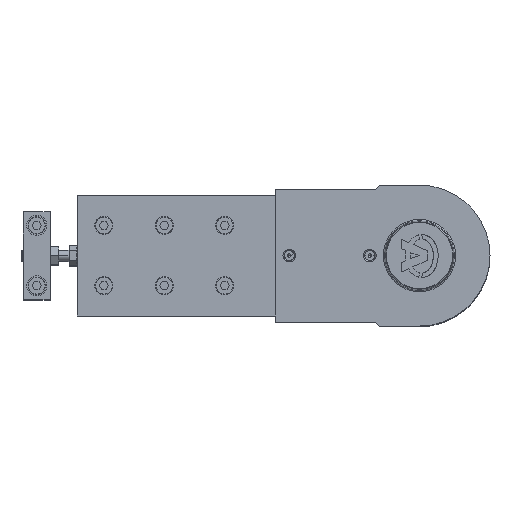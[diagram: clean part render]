
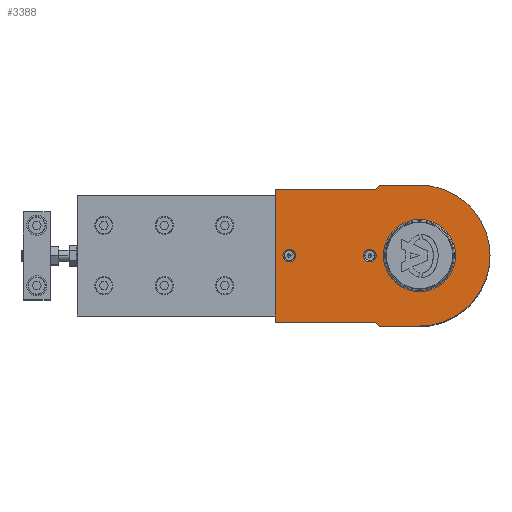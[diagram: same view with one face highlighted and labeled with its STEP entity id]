
A CAD part, top view. The second image highlights one B-rep face of the part: STEP entity #3388.
In plain terms, the highlighted planar face has unit normal (0, 0, 1).
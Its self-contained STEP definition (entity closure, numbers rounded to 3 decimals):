
#365 = EDGE_CURVE ( 'NONE', #3985, #3986, #20412, .T. ) ;
#367 = EDGE_CURVE ( 'NONE', #3980, #3981, #20417, .T. ) ;
#1515 = EDGE_CURVE ( 'NONE', #4199, #4206, #5870, .T. ) ;
#1516 = EDGE_CURVE ( 'NONE', #3981, #3980, #7950, .T. ) ;
#1520 = EDGE_CURVE ( 'NONE', #4206, #4208, #5885, .T. ) ;
#1522 = EDGE_CURVE ( 'NONE', #3990, #3989, #7976, .T. ) ;
#1524 = EDGE_CURVE ( 'NONE', #3986, #3985, #22328, .T. ) ;
#1532 = EDGE_CURVE ( 'NONE', #4209, #4210, #5921, .T. ) ;
#1546 = EDGE_CURVE ( 'NONE', #4210, #4211, #22334, .T. ) ;
#1547 = EDGE_CURVE ( 'NONE', #4213, #4199, #19376, .T. ) ;
#1549 = EDGE_CURVE ( 'NONE', #4208, #4209, #19388, .T. ) ;
#1565 = EDGE_CURVE ( 'NONE', #4211, #4212, #19436, .T. ) ;
#1566 = EDGE_CURVE ( 'NONE', #4212, #4213, #19439, .T. ) ;
#2146 = CARTESIAN_POINT ( 'NONE',  ( 26.933, 0., 0. ) ) ;
#2147 = CARTESIAN_POINT ( 'NONE',  ( -26.933, 0., 0. ) ) ;
#2151 = CARTESIAN_POINT ( 'NONE',  ( 32.3, 0., 0. ) ) ;
#2152 = CARTESIAN_POINT ( 'NONE',  ( 41.7, 0., 0. ) ) ;
#2155 = CARTESIAN_POINT ( 'NONE',  ( 92.3, 0., 0. ) ) ;
#2156 = CARTESIAN_POINT ( 'NONE',  ( 101.7, 0., 0. ) ) ;
#2365 = CARTESIAN_POINT ( 'NONE',  ( 107.5, -49.5, 0. ) ) ;
#2372 = CARTESIAN_POINT ( 'NONE',  ( 107.5, 49.5, 0. ) ) ;
#2374 = CARTESIAN_POINT ( 'NONE',  ( 33., 49.5, 0. ) ) ;
#2375 = CARTESIAN_POINT ( 'NONE',  ( 30., 52.5, 0. ) ) ;
#2376 = CARTESIAN_POINT ( 'NONE',  ( 0., 52.5, 0. ) ) ;
#2377 = CARTESIAN_POINT ( 'NONE',  ( 0., -52.5, 0. ) ) ;
#2378 = CARTESIAN_POINT ( 'NONE',  ( 30., -52.5, 0. ) ) ;
#2379 = CARTESIAN_POINT ( 'NONE',  ( 33., -49.5, 0. ) ) ;
#2893 = CARTESIAN_POINT ( 'NONE',  ( 97., 0., 0. ) ) ;
#2894 = DIRECTION ( 'NONE',  ( 0., 0., 1. ) ) ;
#2895 = DIRECTION ( 'NONE',  ( 1., 0., 0. ) ) ;
#3388 = ADVANCED_FACE ( 'NONE', ( #18412, #18408, #18415, #18416 ), #18417, .T. ) ;
#3980 = VERTEX_POINT ( 'NONE', #2146 ) ;
#3981 = VERTEX_POINT ( 'NONE', #2147 ) ;
#3985 = VERTEX_POINT ( 'NONE', #2151 ) ;
#3986 = VERTEX_POINT ( 'NONE', #2152 ) ;
#3989 = VERTEX_POINT ( 'NONE', #2155 ) ;
#3990 = VERTEX_POINT ( 'NONE', #2156 ) ;
#4199 = VERTEX_POINT ( 'NONE', #2365 ) ;
#4206 = VERTEX_POINT ( 'NONE', #2372 ) ;
#4208 = VERTEX_POINT ( 'NONE', #2374 ) ;
#4209 = VERTEX_POINT ( 'NONE', #2375 ) ;
#4210 = VERTEX_POINT ( 'NONE', #2376 ) ;
#4211 = VERTEX_POINT ( 'NONE', #2377 ) ;
#4212 = VERTEX_POINT ( 'NONE', #2378 ) ;
#4213 = VERTEX_POINT ( 'NONE', #2379 ) ;
#4957 = EDGE_LOOP ( 'NONE', ( #11081, #11082 ) ) ;
#4960 = EDGE_LOOP ( 'NONE', ( #11118, #10955 ) ) ;
#4964 = EDGE_LOOP ( 'NONE', ( #11083, #11084 ) ) ;
#4968 = EDGE_LOOP ( 'NONE', ( #11085, #11086, #11079, #11078, #11077, #11076, #11075, #11074 ) ) ;
#5870 = LINE ( 'NONE', #5872, #7960 ) ;
#5872 = CARTESIAN_POINT ( 'NONE',  ( 107.5, -49.5, 0. ) ) ;
#5873 = DIRECTION ( 'NONE',  ( 0., 1., 0. ) ) ;
#5875 = CARTESIAN_POINT ( 'NONE',  ( 0., 0., 0. ) ) ;
#5876 = DIRECTION ( 'NONE',  ( 0., 0., -1. ) ) ;
#5877 = DIRECTION ( 'NONE',  ( 1., 0., 0. ) ) ;
#5885 = LINE ( 'NONE', #5886, #7972 ) ;
#5886 = CARTESIAN_POINT ( 'NONE',  ( 107.5, 49.5, 0. ) ) ;
#5887 = DIRECTION ( 'NONE',  ( -1., 0., 0. ) ) ;
#5893 = CARTESIAN_POINT ( 'NONE',  ( 97., 0., 0. ) ) ;
#5894 = DIRECTION ( 'NONE',  ( 0., 0., 1. ) ) ;
#5895 = DIRECTION ( 'NONE',  ( 1., 0., 0. ) ) ;
#5899 = CARTESIAN_POINT ( 'NONE',  ( 37., 0., 0. ) ) ;
#5900 = DIRECTION ( 'NONE',  ( 0., 0., 1. ) ) ;
#5901 = DIRECTION ( 'NONE',  ( 1., 0., 0. ) ) ;
#5921 = LINE ( 'NONE', #5922, #22338 ) ;
#5922 = CARTESIAN_POINT ( 'NONE',  ( 30., 52.5, 0. ) ) ;
#5923 = DIRECTION ( 'NONE',  ( -1., 0., 0. ) ) ;
#7265 = EDGE_CURVE ( 'NONE', #3989, #3990, #17616, .T. ) ;
#7950 = CIRCLE ( 'NONE', #7966, 26.933 ) ;
#7960 = VECTOR ( 'NONE', #5873, 1000. ) ;
#7966 = AXIS2_PLACEMENT_3D ( 'NONE', #5875, #5876, #5877 ) ;
#7972 = VECTOR ( 'NONE', #5887, 1000. ) ;
#7976 = CIRCLE ( 'NONE', #20679, 4.7 ) ;
#10955 = ORIENTED_EDGE ( 'NONE', *, *, #1516, .T. ) ;
#11074 = ORIENTED_EDGE ( 'NONE', *, *, #1547, .T. ) ;
#11075 = ORIENTED_EDGE ( 'NONE', *, *, #1566, .T. ) ;
#11076 = ORIENTED_EDGE ( 'NONE', *, *, #1565, .T. ) ;
#11077 = ORIENTED_EDGE ( 'NONE', *, *, #1546, .T. ) ;
#11078 = ORIENTED_EDGE ( 'NONE', *, *, #1532, .T. ) ;
#11079 = ORIENTED_EDGE ( 'NONE', *, *, #1549, .T. ) ;
#11081 = ORIENTED_EDGE ( 'NONE', *, *, #1524, .F. ) ;
#11082 = ORIENTED_EDGE ( 'NONE', *, *, #365, .F. ) ;
#11083 = ORIENTED_EDGE ( 'NONE', *, *, #1522, .F. ) ;
#11084 = ORIENTED_EDGE ( 'NONE', *, *, #7265, .F. ) ;
#11085 = ORIENTED_EDGE ( 'NONE', *, *, #1515, .T. ) ;
#11086 = ORIENTED_EDGE ( 'NONE', *, *, #1520, .T. ) ;
#11118 = ORIENTED_EDGE ( 'NONE', *, *, #367, .T. ) ;
#12953 = AXIS2_PLACEMENT_3D ( 'NONE', #18413, #18403, #18418 ) ;
#14037 = CARTESIAN_POINT ( 'NONE',  ( 37., 0., 0. ) ) ;
#14038 = DIRECTION ( 'NONE',  ( 0., 0., 1. ) ) ;
#14039 = DIRECTION ( 'NONE',  ( 1., 0., 0. ) ) ;
#14043 = CARTESIAN_POINT ( 'NONE',  ( 0., 0., 0. ) ) ;
#14044 = DIRECTION ( 'NONE',  ( 0., 0., -1. ) ) ;
#14045 = DIRECTION ( 'NONE',  ( 1., 0., 0. ) ) ;
#17616 = CIRCLE ( 'NONE', #17618, 4.7 ) ;
#17618 = AXIS2_PLACEMENT_3D ( 'NONE', #2893, #2894, #2895 ) ;
#18403 = DIRECTION ( 'NONE',  ( 0., 0., 1. ) ) ;
#18408 = FACE_BOUND ( 'NONE', #4957, .T. ) ;
#18412 = FACE_BOUND ( 'NONE', #4960, .T. ) ;
#18413 = CARTESIAN_POINT ( 'NONE',  ( 0., 0., 0. ) ) ;
#18415 = FACE_BOUND ( 'NONE', #4964, .T. ) ;
#18416 = FACE_OUTER_BOUND ( 'NONE', #4968, .T. ) ;
#18417 = PLANE ( 'NONE',  #12953 ) ;
#18418 = DIRECTION ( 'NONE',  ( 1., 0., 0. ) ) ;
#19376 = LINE ( 'NONE', #19383, #22353 ) ;
#19380 = CARTESIAN_POINT ( 'NONE',  ( 0., 0., 0. ) ) ;
#19381 = DIRECTION ( 'NONE',  ( 0., 0., 1. ) ) ;
#19382 = DIRECTION ( 'NONE',  ( 1., 0., 0. ) ) ;
#19383 = CARTESIAN_POINT ( 'NONE',  ( 107.5, -49.5, 0. ) ) ;
#19384 = DIRECTION ( 'NONE',  ( 1., 0., 0. ) ) ;
#19388 = LINE ( 'NONE', #19389, #22356 ) ;
#19389 = CARTESIAN_POINT ( 'NONE',  ( 33., 49.5, 0. ) ) ;
#19390 = DIRECTION ( 'NONE',  ( -0.707, 0.707, 0. ) ) ;
#19436 = LINE ( 'NONE', #19437, #22372 ) ;
#19437 = CARTESIAN_POINT ( 'NONE',  ( 30., -52.5, 0. ) ) ;
#19438 = DIRECTION ( 'NONE',  ( 1., 0., 0. ) ) ;
#19439 = LINE ( 'NONE', #19441, #22373 ) ;
#19441 = CARTESIAN_POINT ( 'NONE',  ( 33., -49.5, 0. ) ) ;
#19442 = DIRECTION ( 'NONE',  ( 0.707, 0.707, 0. ) ) ;
#20412 = CIRCLE ( 'NONE', #20419, 4.7 ) ;
#20417 = CIRCLE ( 'NONE', #20427, 26.933 ) ;
#20419 = AXIS2_PLACEMENT_3D ( 'NONE', #14037, #14038, #14039 ) ;
#20427 = AXIS2_PLACEMENT_3D ( 'NONE', #14043, #14044, #14045 ) ;
#20679 = AXIS2_PLACEMENT_3D ( 'NONE', #5893, #5894, #5895 ) ;
#22328 = CIRCLE ( 'NONE', #22329, 4.7 ) ;
#22329 = AXIS2_PLACEMENT_3D ( 'NONE', #5899, #5900, #5901 ) ;
#22334 = CIRCLE ( 'NONE', #22354, 52.5 ) ;
#22338 = VECTOR ( 'NONE', #5923, 1000. ) ;
#22353 = VECTOR ( 'NONE', #19384, 1000. ) ;
#22354 = AXIS2_PLACEMENT_3D ( 'NONE', #19380, #19381, #19382 ) ;
#22356 = VECTOR ( 'NONE', #19390, 1000. ) ;
#22372 = VECTOR ( 'NONE', #19438, 1000. ) ;
#22373 = VECTOR ( 'NONE', #19442, 1000. ) ;
